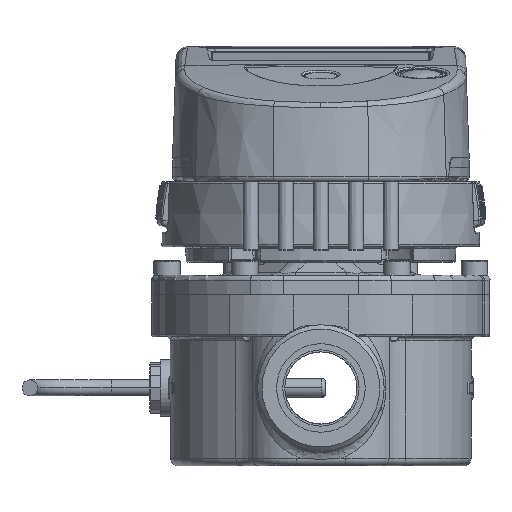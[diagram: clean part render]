
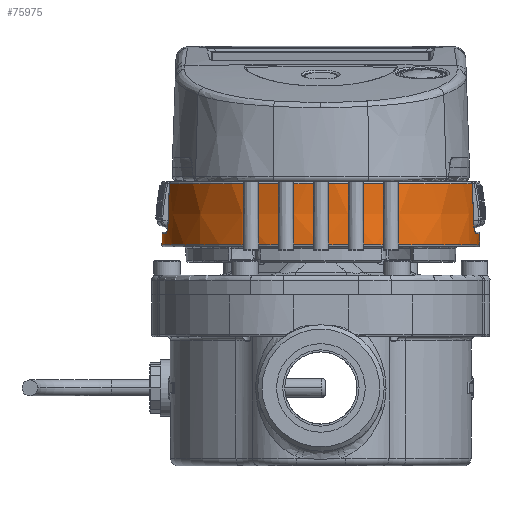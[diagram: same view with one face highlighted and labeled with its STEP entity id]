
A CAD part, left-side view. The second image highlights one B-rep face of the part: STEP entity #75975.
In plain terms, the highlighted conical face has half-angle 1.5 degrees and reference radius 41.35 mm.
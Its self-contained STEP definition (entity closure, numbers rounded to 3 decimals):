
#2222=B_SPLINE_CURVE_WITH_KNOTS('',3,(#126174,#126175,#126176,#126177,#126178),
 .UNSPECIFIED.,.F.,.F.,(4,1,4),(0.,0.5,1.),.UNSPECIFIED.);
#2226=B_SPLINE_CURVE_WITH_KNOTS('',3,(#126207,#126208,#126209,#126210),
 .UNSPECIFIED.,.F.,.F.,(4,4),(0.,1.),.UNSPECIFIED.);
#2231=B_SPLINE_CURVE_WITH_KNOTS('',3,(#126245,#126246,#126247,#126248),
 .UNSPECIFIED.,.F.,.F.,(4,4),(0.,1.),.UNSPECIFIED.);
#2241=B_SPLINE_CURVE_WITH_KNOTS('',3,(#126337,#126338,#126339,#126340,#126341),
 .UNSPECIFIED.,.F.,.F.,(4,1,4),(0.,0.5,1.),
 .UNSPECIFIED.);
#3455=CONICAL_SURFACE('',#82059,41.35,0.026);
#8580=LINE('',#128992,#12646);
#8584=LINE('',#129005,#12650);
#12646=VECTOR('',#96924,1000.);
#12650=VECTOR('',#96938,1000.);
#27153=ORIENTED_EDGE('',*,*,#40196,.T.);
#27154=ORIENTED_EDGE('',*,*,#38906,.F.);
#27155=ORIENTED_EDGE('',*,*,#40201,.F.);
#27156=ORIENTED_EDGE('',*,*,#39499,.F.);
#27157=ORIENTED_EDGE('',*,*,#39501,.T.);
#27158=ORIENTED_EDGE('',*,*,#39505,.T.);
#27159=ORIENTED_EDGE('',*,*,#39511,.F.);
#27160=ORIENTED_EDGE('',*,*,#39516,.T.);
#27161=ORIENTED_EDGE('',*,*,#39529,.T.);
#27162=ORIENTED_EDGE('',*,*,#39533,.F.);
#38906=EDGE_CURVE('',#46587,#46591,#50553,.T.);
#39499=EDGE_CURVE('',#46979,#46977,#50658,.T.);
#39501=EDGE_CURVE('',#46979,#46980,#2222,.F.);
#39505=EDGE_CURVE('',#46980,#46983,#2226,.F.);
#39511=EDGE_CURVE('',#46986,#46983,#50664,.T.);
#39516=EDGE_CURVE('',#46986,#46989,#2231,.F.);
#39529=EDGE_CURVE('',#46989,#46999,#2241,.F.);
#39533=EDGE_CURVE('',#47002,#46999,#50670,.T.);
#40196=EDGE_CURVE('',#47002,#46591,#8580,.T.);
#40201=EDGE_CURVE('',#46977,#46587,#8584,.T.);
#46587=VERTEX_POINT('',#124647);
#46591=VERTEX_POINT('',#124663);
#46977=VERTEX_POINT('',#126161);
#46979=VERTEX_POINT('',#126170);
#46980=VERTEX_POINT('',#126179);
#46983=VERTEX_POINT('',#126206);
#46986=VERTEX_POINT('',#126223);
#46989=VERTEX_POINT('',#126244);
#46999=VERTEX_POINT('',#126342);
#47002=VERTEX_POINT('',#126364);
#50553=CIRCLE('',#81225,41.786);
#50658=CIRCLE('',#81582,41.71);
#50664=CIRCLE('',#81592,41.363);
#50670=CIRCLE('',#81604,41.71);
#54672=EDGE_LOOP('',(#27153,#27154,#27155,#27156,#27157,#27158,#27159,#27160,
#27161,#27162));
#58807=FACE_BOUND('',#54672,.T.);
#75975=ADVANCED_FACE('',(#58807),#3455,.T.);
#81225=AXIS2_PLACEMENT_3D('',#124666,#94751,#94752);
#81582=AXIS2_PLACEMENT_3D('',#126171,#95845,#95846);
#81592=AXIS2_PLACEMENT_3D('',#126224,#95865,#95866);
#81604=AXIS2_PLACEMENT_3D('',#126365,#95889,#95890);
#82059=AXIS2_PLACEMENT_3D('',#129020,#96955,#96956);
#94751=DIRECTION('',(0.,0.,-1.));
#94752=DIRECTION('',(-1.,0.,0.));
#95845=DIRECTION('',(0.,0.,1.));
#95846=DIRECTION('',(1.,0.,0.));
#95865=DIRECTION('',(0.,0.,1.));
#95866=DIRECTION('',(1.,0.,0.));
#95889=DIRECTION('',(0.,0.,1.));
#95890=DIRECTION('',(1.,0.,0.));
#96924=DIRECTION('',(-0.026,0.,-1.));
#96938=DIRECTION('',(0.026,0.,-1.));
#96955=DIRECTION('',(0.,0.,-1.));
#96956=DIRECTION('',(1.,0.,0.));
#124647=CARTESIAN_POINT('',(41.782,-7.4,0.513));
#124663=CARTESIAN_POINT('',(-41.782,-7.4,0.513));
#124666=CARTESIAN_POINT('',(0.,-6.85,0.513));
#126161=CARTESIAN_POINT('',(41.706,-7.399,3.413));
#126170=CARTESIAN_POINT('',(40.865,-15.202,3.413));
#126171=CARTESIAN_POINT('',(0.,-6.85,3.413));
#126174=CARTESIAN_POINT('',(40.194,-17.73,5.847));
#126175=CARTESIAN_POINT('',(40.232,-17.7,5.191));
#126176=CARTESIAN_POINT('',(40.42,-17.126,3.913));
#126177=CARTESIAN_POINT('',(40.728,-15.845,3.404));
#126178=CARTESIAN_POINT('',(40.869,-15.203,3.413));
#126179=CARTESIAN_POINT('',(40.199,-17.731,5.848));
#126206=CARTESIAN_POINT('',(39.826,-18.019,16.663));
#126207=CARTESIAN_POINT('',(39.827,-18.019,16.663));
#126208=CARTESIAN_POINT('',(39.951,-17.923,13.058));
#126209=CARTESIAN_POINT('',(40.075,-17.827,9.453));
#126210=CARTESIAN_POINT('',(40.2,-17.731,5.848));
#126223=CARTESIAN_POINT('',(-39.826,-18.019,16.663));
#126224=CARTESIAN_POINT('',(0.,-6.85,16.663));
#126244=CARTESIAN_POINT('',(-40.199,-17.731,5.848));
#126245=CARTESIAN_POINT('',(-40.2,-17.731,5.848));
#126246=CARTESIAN_POINT('',(-40.075,-17.827,9.453));
#126247=CARTESIAN_POINT('',(-39.951,-17.923,13.058));
#126248=CARTESIAN_POINT('',(-39.827,-18.019,16.663));
#126337=CARTESIAN_POINT('',(-40.869,-15.203,3.413));
#126338=CARTESIAN_POINT('',(-40.728,-15.844,3.404));
#126339=CARTESIAN_POINT('',(-40.42,-17.125,3.913));
#126340=CARTESIAN_POINT('',(-40.232,-17.7,5.191));
#126341=CARTESIAN_POINT('',(-40.194,-17.73,5.847));
#126342=CARTESIAN_POINT('',(-40.865,-15.202,3.413));
#126364=CARTESIAN_POINT('',(-41.706,-7.399,3.413));
#126365=CARTESIAN_POINT('',(0.,-6.85,3.413));
#128992=CARTESIAN_POINT('',(-41.346,-7.394,17.15));
#129005=CARTESIAN_POINT('',(41.346,-7.394,17.15));
#129020=CARTESIAN_POINT('',(0.,-6.85,17.15));
